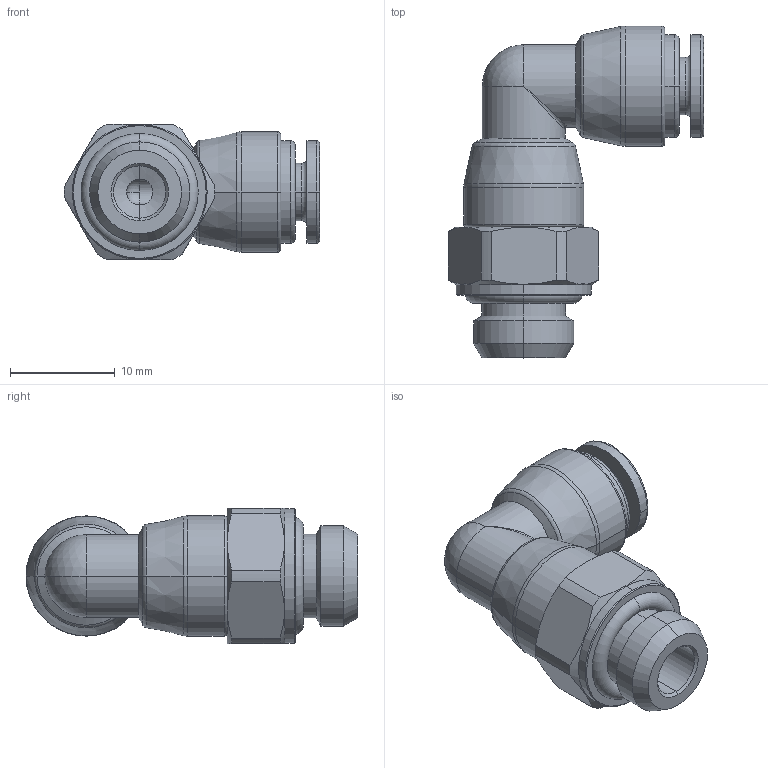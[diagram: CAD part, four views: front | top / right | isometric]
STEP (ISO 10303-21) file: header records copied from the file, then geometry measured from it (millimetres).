
FILE_DESCRIPTION (( 'STEP AP214' ), '1' );
FILE_NAME ('53117X0004A.STEP', '2024-05-09T14:22:25', ( '' ), ( '' ), 'SwSTEP 2.0', 'SolidWorks 2020', '' );
FILE_SCHEMA (( 'AUTOMOTIVE_DESIGN' ));
Length unit declared in the file: millimetre
Products named in the file (1): 53117X0004A
Bounding box: 24.4 x 31.75 x 13 mm (x, y, z)
Volume: 3063.6 mm3; surface area: 2312.2 mm2
Topology: 1 solids, 1 shells, 145 faces, 340 edges, 201 vertices
Faces by surface type: plane 40, cylinder 34, cone 30, torus 22, bspline 15, sphere 4
Entity records: 6298 total; most frequent: CARTESIAN_POINT 1442, DIRECTION 678, ORIENTED_EDGE 668, EDGE_CURVE 334, AXIS2_PLACEMENT_3D 267, VERTEX_POINT 201, EDGE_LOOP 157, UNCERTAINTY_MEASURE_WITH_UNIT 148
